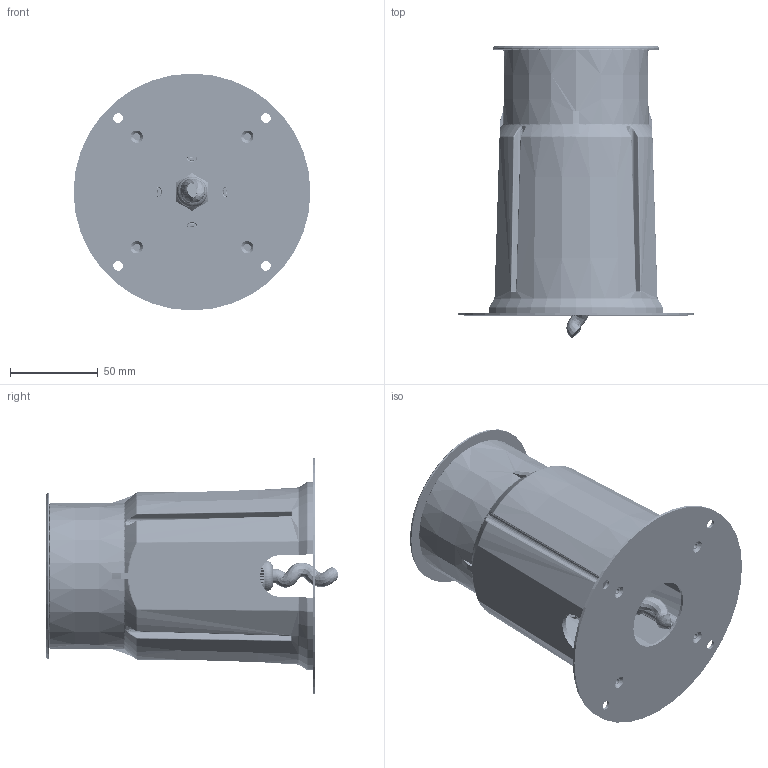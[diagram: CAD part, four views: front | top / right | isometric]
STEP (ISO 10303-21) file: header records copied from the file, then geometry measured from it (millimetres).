
FILE_DESCRIPTION((''),'2;1');
FILE_NAME('181_-2CF__ASM','2024-08-28T',('C027'),(''),'CREO PARAMETRIC BY PTC INC, 2014500','CREO PARAMETRIC BY PTC INC, 2014500','');
FILE_SCHEMA(('CONFIG_CONTROL_DESIGN'));
Length unit declared in the file: millimetre
Products named in the file (41): 2CF-YUMAITONG_ANY_16; YUMAI-COVER_ANY_2; 181-_W_I_______3D_ANY_ASM_2_ASM; 181-2CF_3D_ASM_3_ASM; HOUSING-90-1_64_1_2_1; FACE-COVER_7_1_1_1; ZHUZI_23_1_1_1; YAP_22_1_1_1; YUANPAN-HEATSINK_18_1_1_1; MSBR-9_1_12_1_1_1; MSBR-8_1_1_1_1_1; MSBR-7_1_1_1_1_1; 2X_ASM_1_1_ASM_1_1_ASM; GLASS-FACE_6_1_1_1; BACK-COVER-N-1_37_1_1_1; PAD_1_1_1_1; FANGUANGSAI-1_1_1_1_1; FANGSHUISAI_1_1_1_1; LINE_3_1_1_1; PG9_ASM_5_1_ASM_1_1_ASM; HEXAGON_SOCKET_HEAD_CAP_SCREW_2; GAIMAO_10_1_1_1; HEX_SOCKET_SET_SCREWS_WITH_CO_2; BACK-RUBBER_16_1_1_1; DRIVER-BOX-1_19_1_1_1; KEDUPAN_10_1_1_1; SAIZI_9_1_1_1; LUOMU_17_1_1_1; T-H_18_1_1_1; RUBBER-001_6_1_1_1; GB-M3X5__2_1_1_1; CROSS_RECESSED_COUNTERSUNK_HE_2; SCREW-M3-6_3_1_1_1; RUBBER_61_1_1_1; PG9-NUT_3_1_1_1; 2CF-KP_4_1_1_1; B-SCREW-M4_5_1_1_1; 2CF_ASM_131_1_ASM_1_1_ASM; ASM0001_ASM_3_1_ASM; ASM0003_ASM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
Assembly tree (51 placements, depth 6):
  181_-2CF__ASM
    181-2CF_3D_ASM_3_ASM
      181-_W_I_______3D_ANY_ASM_2_ASM
        2CF-YUMAITONG_ANY_16
        YUMAI-COVER_ANY_2
    ASM0003_ASM
      ASM0001_ASM_3_1_ASM
        2CF_ASM_131_1_ASM_1_1_ASM
          HOUSING-90-1_64_1_2_1
          FACE-COVER_7_1_1_1
          ZHUZI_23_1_1_1
          YAP_22_1_1_1
          YUANPAN-HEATSINK_18_1_1_1
          2X_ASM_1_1_ASM_1_1_ASM
            MSBR-9_1_12_1_1_1
            MSBR-8_1_1_1_1_1
            MSBR-7_1_1_1_1_1
          GLASS-FACE_6_1_1_1
          BACK-COVER-N-1_37_1_1_1
          PG9_ASM_5_1_ASM_1_1_ASM
            PAD_1_1_1_1
            FANGUANGSAI-1_1_1_1_1
            FANGSHUISAI_1_1_1_1
            LINE_3_1_1_1
          HEXAGON_SOCKET_HEAD_CAP_SCREW_2  x4
          GAIMAO_10_1_1_1
          HEX_SOCKET_SET_SCREWS_WITH_CO_2  x2
          BACK-RUBBER_16_1_1_1
          DRIVER-BOX-1_19_1_1_1
          KEDUPAN_10_1_1_1
          SAIZI_9_1_1_1
          LUOMU_17_1_1_1
          T-H_18_1_1_1  x2
          RUBBER-001_6_1_1_1
          GB-M3X5__2_1_1_1  x2
          CROSS_RECESSED_COUNTERSUNK_HE_2  x2
          SCREW-M3-6_3_1_1_1  x2
          RUBBER_61_1_1_1
          PG9-NUT_3_1_1_1
          2CF-KP_4_1_1_1
          B-SCREW-M4_5_1_1_1  x4
Bounding box: 135 x 166.43 x 135 mm (x, y, z)
Volume: 311877 mm3; surface area: 259896.9 mm2
Topology: 44 solids, 44 shells, 4873 faces, 12954 edges, 8252 vertices
Faces by surface type: plane 2296, cylinder 1181, cone 824, torus 232, bspline 231, sphere 108, revolution 1
Entity records: 166350 total; most frequent: CARTESIAN_POINT 59161, ORIENTED_EDGE 23176, DIRECTION 21237, EDGE_CURVE 11588, AXIS2_PLACEMENT_3D 7660, VERTEX_POINT 7509, VECTOR 5916, LINE 5916
